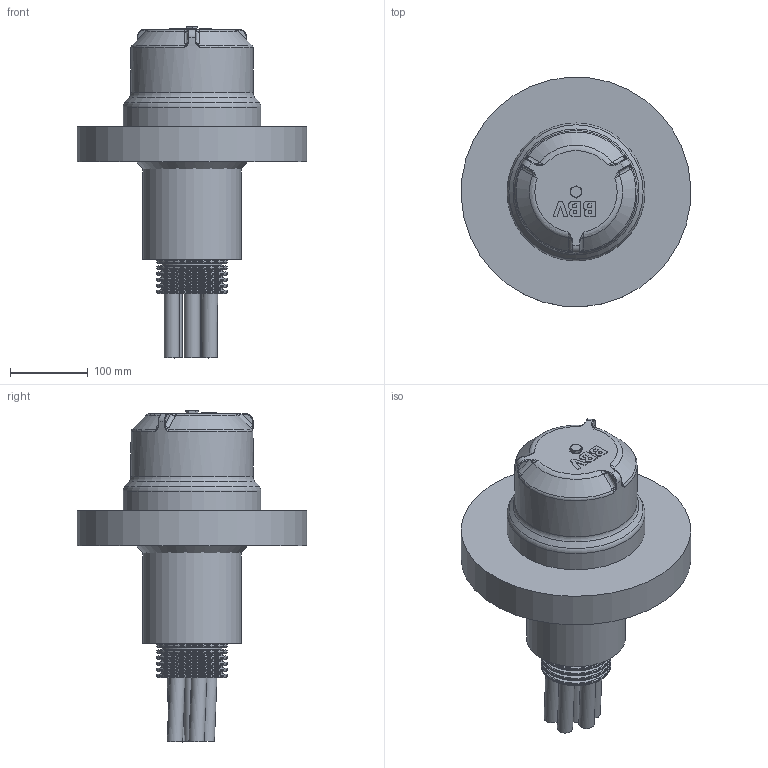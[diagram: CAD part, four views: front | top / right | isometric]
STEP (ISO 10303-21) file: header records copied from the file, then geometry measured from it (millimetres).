
FILE_DESCRIPTION(/* description */ (''),/* implementation_level */ '2;1');
FILE_NAME(/* name */ 'C:\Users\glowak\Vault\CAD-Daten\Konstruktion\02b. Geotechnik\ETA-16-0262 Ankerköpfe\Dauer\mono\ETA-16-0262.GK.007.30.A Dauer (mono) -L7 - GG-Schutzkappe.stp',/* time_stamp */ '2024-05-28T16:24:48+02:00',/* author */ ('gpetri'),/* organization */ (''),/* preprocessor_version */ 'ST-DEVELOPER v18.1',/* originating_system */ 'Autodesk Inventor 2021',/* authorisation */ '');
FILE_SCHEMA (('AUTOMOTIVE_DESIGN { 1 0 10303 214 3 1 1 }'));
Length unit declared in the file: millimetre
Products named in the file (1): ETA-16-0262.GK.007.30 Dauer (mono) - GG-Schutzkappe_STEP
Bounding box: 294.52 x 294.52 x 426.11 mm (x, y, z)
Volume: 6497571.6 mm3; surface area: 747901.2 mm2
Topology: 15 solids, 15 shells, 457 faces, 1176 edges, 747 vertices
Faces by surface type: torus 122, bspline 100, plane 85, cylinder 84, cone 66
Full cylindrical faces by diameter (mm): 10 x1, 14 x1, 19.6 x7, 76 x13, 78 x13, 88 x13, 90 x13, 110 x1, 118.5 x1, 127 x1, 139 x1, 145 x2, 153 x1, 157 x1, 169 x1, 177 x1, 295 x1
Entity records: 16508 total; most frequent: CARTESIAN_POINT 4820, DIRECTION 2386, ORIENTED_EDGE 2326, EDGE_CURVE 1163, AXIS2_PLACEMENT_3D 1053, VERTEX_POINT 747, CIRCLE 695, EDGE_LOOP 472
